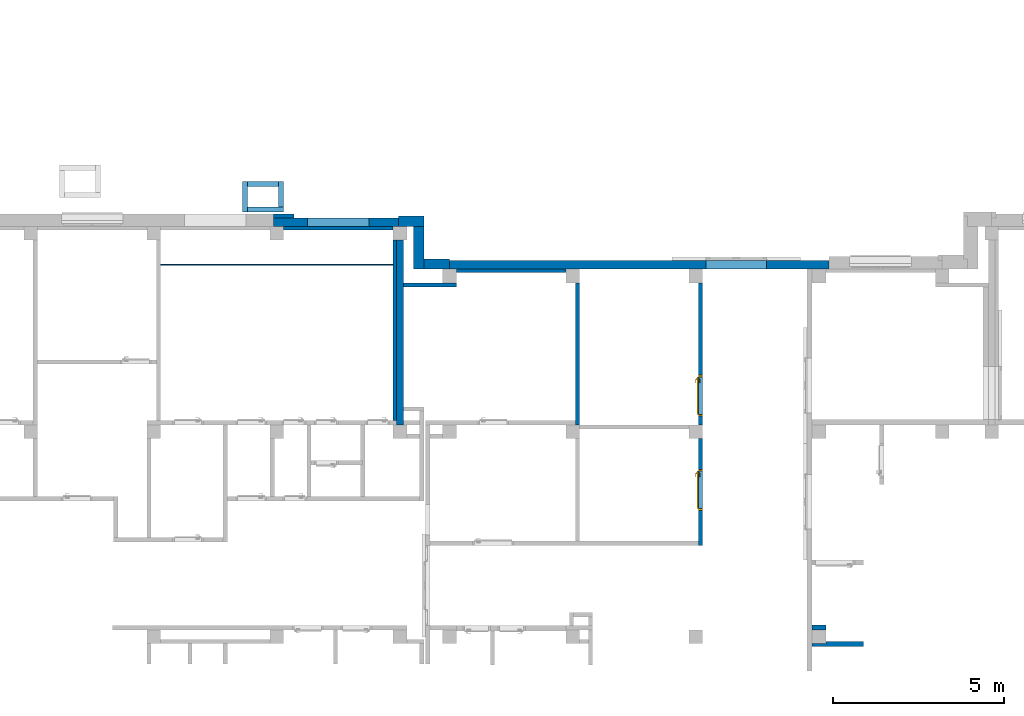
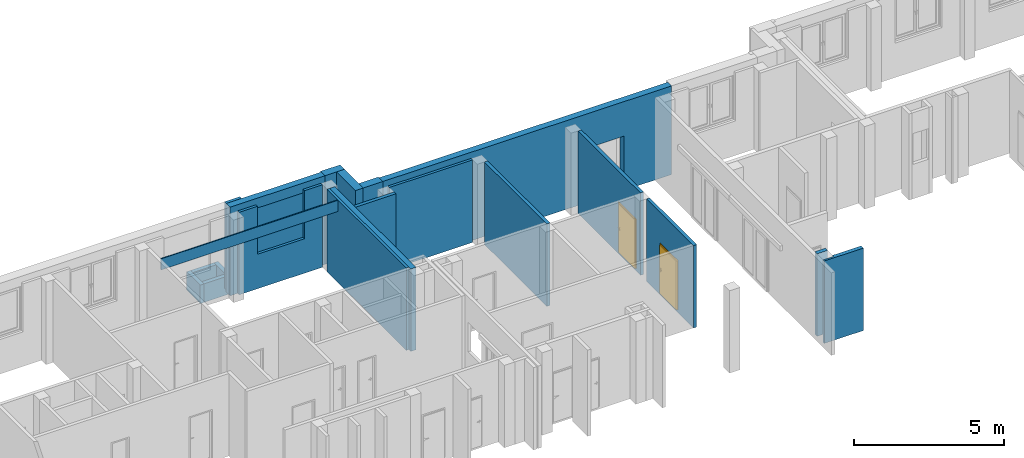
# One storey, part 19 of 37: 22 walls, 2 doors, 5 openings.
"""IFC4 building model written with IfcOpenShell, lengths in metres."""

from ifc_helpers import new_model, entity, si_unit, converted_unit, derived_unit, frame, frame_2d, origin, origin_with_axes, place, context, subcontext, project, spatial, polyline, rectangle, outline, extrude, closed_shell, open_shell, surface_model, source, transform, mapped, material, layer, layer_set, layer_usage, type_object, element, fill, save


model = new_model("IFC4")

# Units and contexts
model_context = context("Model", 3, precision=1e-05, world=origin())
body_context = subcontext(model_context, "Body", "Model", "MODEL_VIEW")
ifc_project = project(units=[si_unit("LENGTHUNIT", "METRE"), si_unit("AREAUNIT", "SQUARE_METRE"), si_unit("VOLUMEUNIT", "CUBIC_METRE"), si_unit("MASSUNIT", "GRAM", prefix="KILO"), converted_unit("PLANEANGLEUNIT", "DEGREE", entity("IfcPlaneAngleMeasure", 0.0174532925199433), si_unit("PLANEANGLEUNIT", "RADIAN"), dimensions=[0, 0, 0, 0, 0, 0, 0]), derived_unit("THERMALTRANSMITTANCEUNIT", [(si_unit("POWERUNIT", "WATT"), 1), (si_unit("THERMODYNAMICTEMPERATUREUNIT", "KELVIN"), -1), (si_unit("LENGTHUNIT", "METRE"), -2)]), derived_unit("VOLUMETRICFLOWRATEUNIT", [(si_unit("LENGTHUNIT", "METRE"), 3), (converted_unit("TIMEUNIT", "hour", entity("IfcTimeMeasure", 3600.0), si_unit("TIMEUNIT", "SECOND"), dimensions=[0, 0, 1, 0, 0, 0, 0]), -1), (si_unit("LENGTHUNIT", "METRE"), -1)])], contexts=[model_context])

# Site, building, storey
site_placement = place(None, origin())
site = spatial("IfcSite", under=ifc_project, at=site_placement, Name="3. ASŘ", CompositionType="ELEMENT")
building_placement = place(site_placement, origin())
building = spatial("IfcBuilding", under=site, at=building_placement, Name="Pavilon B", CompositionType="ELEMENT")
storey_placement = place(building_placement, origin())
storey = spatial("IfcBuildingStorey", under=building, at=storey_placement, Name="Půdorys 1.NP", CompositionType="ELEMENT", Elevation=0.0)

# Wall, opening, door
ifc_material_1 = material(Name="ZDIVO Z CDm")
ifc_layer_1 = layer(ifc_material_1, 0.125)
ifc_layer_set_1 = layer_set([ifc_layer_1])
ifc_layer_usage_1 = layer_usage(ifc_layer_set_1, "AXIS2", "POSITIVE", 0.0)
wall_1_placement = place(storey_placement, frame((40.65, -21.4, -0.1), z_axis=(0.0, 0.0, 1.0), x_axis=(0.0, 1.0, 0.0)))
wall_1 = element("IfcWall", 1, at=wall_1_placement, inside=storey, material=ifc_layer_usage_1, Name="ZDIVO Z CDm", context=body_context, shape_type="SweptSolid", body=[
    extrude(rectangle(XDim=4.15, YDim=0.125, at=frame_2d((2.075, 0.0625), x_axis=(1.0, 0.0))), origin_with_axes(), (0.0, 0.0, 1.0), 3.35),
])
opening_1_placement = place(wall_1_placement, frame((1.45000000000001, 0.125, 0.1), z_axis=(0.0, -1.0, 0.0), x_axis=(0.0, 0.0, 1.0)))
opening_1 = element("IfcOpeningElement", 2, at=opening_1_placement, cuts=wall_1, Name="Dveřní otvor", ObjectType="Opening", context=body_context, shape_type="SweptSolid", body=[
    extrude(outline(polyline([(0.0, 1.2), (2.02, 1.2), (2.02, 0.0), (0.0, 0.0), (0.0, 1.2)])), origin_with_axes(), (0.0, 0.0, 1.0), 0.125),
])
door_type_1 = type_object("IfcDoorType", Name="D101", OperationType="NOTDEFINED", ParameterTakesPrecedence=False, PredefinedType="DOOR")
shared_shape = source(origin_with_axes(), body_context, "Body", "SurfaceModel", [
    surface_model("IfcShellBasedSurfaceModel", [(0.0, 0.125, 2.02), (0.0, 0.125, -7.65404249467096e-18), (0.05, 0.125, -7.65404249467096e-18), (0.05, 0.125, 2.02), (0.0, 0.0, 7.65404249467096e-18), (0.0, 2.41584530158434e-16, 2.02), (0.05, 2.41584530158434e-16, 2.02), (0.05, 0.0, 7.65404249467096e-18)], [closed_shell([[[0, 1, 2, 3]], [[4, 5, 6, 7]], [[1, 0, 5, 4]], [[2, 1, 4, 7]], [[3, 2, 7, 6]], [[0, 3, 6, 5]]], orient=[[False], [False], [False], [False], [False], [False]])]),
    surface_model("IfcShellBasedSurfaceModel", [(1.15, 0.125, 2.02), (1.15, 0.125, -7.65404249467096e-18), (1.2, 0.125, -7.65404249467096e-18), (1.2, 0.125, 2.02), (1.15, 0.0, 7.65404249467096e-18), (1.15, 2.41584530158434e-16, 2.02), (1.2, 2.41584530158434e-16, 2.02), (1.2, 0.0, 7.65404249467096e-18)], [closed_shell([[[0, 1, 2, 3]], [[4, 5, 6, 7]], [[1, 0, 5, 4]], [[2, 1, 4, 7]], [[3, 2, 7, 6]], [[0, 3, 6, 5]]], orient=[[False], [False], [False], [False], [False], [False]])]),
    surface_model("IfcShellBasedSurfaceModel", [(0.05, 0.125, 2.02), (0.05, 0.125, 1.97), (1.15, 0.125, 1.97), (1.15, 0.125, 2.02), (0.05, 2.41584530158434e-16, 1.97), (0.05, 2.41584530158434e-16, 2.02), (1.15, 2.41584530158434e-16, 2.02), (1.15, 2.41584530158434e-16, 1.97)], [closed_shell([[[0, 1, 2, 3]], [[4, 5, 6, 7]], [[1, 0, 5, 4]], [[2, 1, 4, 7]], [[3, 2, 7, 6]], [[0, 3, 6, 5]]], orient=[[False], [False], [False], [False], [False], [False]])]),
    surface_model("IfcShellBasedSurfaceModel", [(0.05, 0.165, 1.97), (0.05, 0.165, -1.25526296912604e-17), (1.15, 0.165, -1.25526296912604e-17), (1.15, 0.165, 1.97), (0.05, 0.125, -7.65404249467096e-18), (0.05, 0.125, 1.97), (1.15, 0.125, 1.97), (1.15, 0.125, -7.65404249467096e-18)], [closed_shell([[[0, 1, 2, 3]], [[4, 5, 6, 7]], [[1, 0, 5, 4]], [[2, 1, 4, 7]], [[3, 2, 7, 6]], [[0, 3, 6, 5]]], orient=[[False], [False], [False], [False], [False], [False]])]),
    surface_model("IfcShellBasedSurfaceModel", [(1.10881569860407, 0.125, 0.93625), (1.1125, 0.125, 0.95), (1.10881569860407, 0.125, 0.96375), (1.09875, 0.125, 0.973815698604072), (1.085, 0.125, 0.9775), (1.07125, 0.125, 0.973815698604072), (1.06118430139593, 0.125, 0.96375), (1.0575, 0.125, 0.95), (1.06118430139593, 0.125, 0.93625), (1.07125, 0.125, 0.926184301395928), (1.085, 0.125, 0.9225), (1.09875, 0.125, 0.926184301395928), (1.1125, 0.1125, 0.95), (1.10881569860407, 0.1125, 0.93625), (1.09875, 0.1125, 0.926184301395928), (1.085, 0.1125, 0.9225), (1.07125, 0.1125, 0.926184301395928), (1.06118430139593, 0.1125, 0.93625), (1.0575, 0.1125, 0.95), (1.06118430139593, 0.1125, 0.96375), (1.07125, 0.1125, 0.973815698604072), (1.085, 0.1125, 0.9775), (1.09875, 0.1125, 0.973815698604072), (1.10881569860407, 0.1125, 0.96375)], [closed_shell([[[0, 1, 2, 3, 4, 5, 6, 7, 8, 9, 10, 11]], [[12, 13, 14, 15, 16, 17, 18, 19, 20, 21, 22, 23]], [[1, 0, 13, 12]], [[2, 1, 12, 23]], [[3, 2, 23, 22]], [[4, 3, 22, 21]], [[5, 4, 21, 20]], [[6, 5, 20, 19]], [[7, 6, 19, 18]], [[8, 7, 18, 17]], [[9, 8, 17, 16]], [[10, 9, 16, 15]], [[11, 10, 15, 14]], [[0, 11, 14, 13]]], orient=[[False], [False], [False], [False], [False], [False], [False], [False], [False], [False], [False], [False], [False], [False]])]),
    surface_model("IfcShellBasedSurfaceModel", [(1.10881569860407, 0.125, 1.03625), (1.1125, 0.125, 1.05), (1.10881569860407, 0.125, 1.06375), (1.09875, 0.125, 1.07381569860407), (1.085, 0.125, 1.0775), (1.07125, 0.125, 1.07381569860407), (1.06118430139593, 0.125, 1.06375), (1.0575, 0.125, 1.05), (1.06118430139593, 0.125, 1.03625), (1.07125, 0.125, 1.02618430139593), (1.085, 0.125, 1.0225), (1.09875, 0.125, 1.02618430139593), (1.1125, 0.1125, 1.05), (1.10881569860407, 0.1125, 1.03625), (1.09875, 0.1125, 1.02618430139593), (1.085, 0.1125, 1.0225), (1.07125, 0.1125, 1.02618430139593), (1.06118430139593, 0.1125, 1.03625), (1.0575, 0.1125, 1.05), (1.06118430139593, 0.1125, 1.06375), (1.07125, 0.1125, 1.07381569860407), (1.085, 0.1125, 1.0775), (1.09875, 0.1125, 1.07381569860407), (1.10881569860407, 0.1125, 1.06375)], [closed_shell([[[0, 1, 2, 3, 4, 5, 6, 7, 8, 9, 10, 11]], [[12, 13, 14, 15, 16, 17, 18, 19, 20, 21, 22, 23]], [[1, 0, 13, 12]], [[2, 1, 12, 23]], [[3, 2, 23, 22]], [[4, 3, 22, 21]], [[5, 4, 21, 20]], [[6, 5, 20, 19]], [[7, 6, 19, 18]], [[8, 7, 18, 17]], [[9, 8, 17, 16]], [[10, 9, 16, 15]], [[11, 10, 15, 14]], [[0, 11, 14, 13]]], orient=[[False], [False], [False], [False], [False], [False], [False], [False], [False], [False], [False], [False], [False], [False]])]),
    surface_model("IfcShellBasedSurfaceModel", [(1.085, 0.125, 1.06), (1.08, 0.125, 1.05866025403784), (1.07633974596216, 0.125, 1.055), (1.075, 0.125, 1.05), (1.07633974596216, 0.125, 1.045), (1.08, 0.125, 1.04133974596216), (1.085, 0.125, 1.04), (1.09, 0.125, 1.04133974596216), (1.09366025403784, 0.125, 1.045), (1.095, 0.125, 1.05), (1.09366025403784, 0.125, 1.055), (1.09, 0.125, 1.05866025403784), (1.09, 0.0800000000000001, 1.05866025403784), (1.085, 0.0850000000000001, 1.06), (1.09366025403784, 0.0763397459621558, 1.055), (1.095, 0.0750000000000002, 1.05), (1.09366025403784, 0.0763397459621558, 1.045), (1.09, 0.0800000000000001, 1.04133974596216), (1.085, 0.0850000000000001, 1.04), (1.08, 0.0900000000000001, 1.04133974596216), (1.07633974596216, 0.0936602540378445, 1.045), (1.075, 0.0950000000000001, 1.05), (1.07633974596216, 0.0936602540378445, 1.055), (1.08, 0.0900000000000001, 1.05866025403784), (0.97, 0.0800000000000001, 1.05866025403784), (0.97, 0.0850000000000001, 1.06), (0.97, 0.0763397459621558, 1.055), (0.97, 0.0750000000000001, 1.05), (0.97, 0.0763397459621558, 1.045), (0.97, 0.0800000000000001, 1.04133974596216), (0.97, 0.0850000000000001, 1.04), (0.97, 0.0900000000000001, 1.04133974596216), (0.97, 0.0936602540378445, 1.045), (0.97, 0.0950000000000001, 1.05), (0.97, 0.0936602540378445, 1.055), (0.97, 0.0900000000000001, 1.05866025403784)], [open_shell([[[0, 1, 2, 3, 4, 5, 6, 7, 8, 9, 10, 11]], [[0, 11, 12, 13]], [[11, 10, 14, 12]], [[10, 9, 15, 14]], [[9, 8, 16, 15]], [[8, 7, 17, 16]], [[7, 6, 18, 17]], [[6, 5, 19, 18]], [[5, 4, 20, 19]], [[4, 3, 21, 20]], [[3, 2, 22, 21]], [[2, 1, 23, 22]], [[1, 0, 13, 23]], [[13, 12, 24, 25]], [[12, 14, 26, 24]], [[14, 15, 27, 26]], [[15, 16, 28, 27]], [[16, 17, 29, 28]], [[17, 18, 30, 29]], [[18, 19, 31, 30]], [[19, 20, 32, 31]], [[20, 21, 33, 32]], [[21, 22, 34, 33]], [[22, 23, 35, 34]], [[23, 13, 25, 35]]], orient=[[False], [False], [False], [False], [False], [False], [False], [False], [False], [False], [False], [False], [False], [False], [False], [False], [False], [False], [False], [False], [False], [False], [False], [False], [False]])]),
    surface_model("IfcShellBasedSurfaceModel", [(1.10881569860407, 0.165, 0.93625), (1.09875, 0.165, 0.926184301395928), (1.085, 0.165, 0.9225), (1.07125, 0.165, 0.926184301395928), (1.06118430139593, 0.165, 0.93625), (1.0575, 0.165, 0.95), (1.06118430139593, 0.165, 0.96375), (1.07125, 0.165, 0.973815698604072), (1.085, 0.165, 0.9775), (1.09875, 0.165, 0.973815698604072), (1.10881569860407, 0.165, 0.96375), (1.1125, 0.165, 0.95), (1.1125, 0.1775, 0.95), (1.10881569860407, 0.1775, 0.96375), (1.09875, 0.1775, 0.973815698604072), (1.085, 0.1775, 0.9775), (1.07125, 0.1775, 0.973815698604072), (1.06118430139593, 0.1775, 0.96375), (1.0575, 0.1775, 0.95), (1.06118430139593, 0.1775, 0.93625), (1.07125, 0.1775, 0.926184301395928), (1.085, 0.1775, 0.9225), (1.09875, 0.1775, 0.926184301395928), (1.10881569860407, 0.1775, 0.93625)], [closed_shell([[[0, 1, 2, 3, 4, 5, 6, 7, 8, 9, 10, 11]], [[12, 13, 14, 15, 16, 17, 18, 19, 20, 21, 22, 23]], [[11, 12, 23, 0]], [[10, 13, 12, 11]], [[9, 14, 13, 10]], [[8, 15, 14, 9]], [[7, 16, 15, 8]], [[6, 17, 16, 7]], [[5, 18, 17, 6]], [[4, 19, 18, 5]], [[3, 20, 19, 4]], [[2, 21, 20, 3]], [[1, 22, 21, 2]], [[0, 23, 22, 1]]], orient=[[False], [False], [False], [False], [False], [False], [False], [False], [False], [False], [False], [False], [False], [False]])]),
    surface_model("IfcShellBasedSurfaceModel", [(1.10881569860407, 0.165, 1.03625), (1.09875, 0.165, 1.02618430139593), (1.085, 0.165, 1.0225), (1.07125, 0.165, 1.02618430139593), (1.06118430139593, 0.165, 1.03625), (1.0575, 0.165, 1.05), (1.06118430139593, 0.165, 1.06375), (1.07125, 0.165, 1.07381569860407), (1.085, 0.165, 1.0775), (1.09875, 0.165, 1.07381569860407), (1.10881569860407, 0.165, 1.06375), (1.1125, 0.165, 1.05), (1.1125, 0.1775, 1.05), (1.10881569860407, 0.1775, 1.06375), (1.09875, 0.1775, 1.07381569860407), (1.085, 0.1775, 1.0775), (1.07125, 0.1775, 1.07381569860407), (1.06118430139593, 0.1775, 1.06375), (1.0575, 0.1775, 1.05), (1.06118430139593, 0.1775, 1.03625), (1.07125, 0.1775, 1.02618430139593), (1.085, 0.1775, 1.0225), (1.09875, 0.1775, 1.02618430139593), (1.10881569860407, 0.1775, 1.03625)], [closed_shell([[[0, 1, 2, 3, 4, 5, 6, 7, 8, 9, 10, 11]], [[12, 13, 14, 15, 16, 17, 18, 19, 20, 21, 22, 23]], [[11, 12, 23, 0]], [[10, 13, 12, 11]], [[9, 14, 13, 10]], [[8, 15, 14, 9]], [[7, 16, 15, 8]], [[6, 17, 16, 7]], [[5, 18, 17, 6]], [[4, 19, 18, 5]], [[3, 20, 19, 4]], [[2, 21, 20, 3]], [[1, 22, 21, 2]], [[0, 23, 22, 1]]], orient=[[False], [False], [False], [False], [False], [False], [False], [False], [False], [False], [False], [False], [False], [False]])]),
    surface_model("IfcShellBasedSurfaceModel", [(1.085, 0.165, 1.06), (1.09, 0.165, 1.05866025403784), (1.09366025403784, 0.165, 1.055), (1.095, 0.165, 1.05), (1.09366025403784, 0.165, 1.045), (1.09, 0.165, 1.04133974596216), (1.085, 0.165, 1.04), (1.08, 0.165, 1.04133974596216), (1.07633974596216, 0.165, 1.045), (1.075, 0.165, 1.05), (1.07633974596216, 0.165, 1.055), (1.08, 0.165, 1.05866025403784), (1.085, 0.205, 1.06), (1.09, 0.21, 1.05866025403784), (1.09366025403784, 0.213660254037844, 1.055), (1.095, 0.215, 1.05), (1.09366025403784, 0.213660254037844, 1.045), (1.09, 0.21, 1.04133974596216), (1.085, 0.205, 1.04), (1.08, 0.2, 1.04133974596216), (1.07633974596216, 0.196339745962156, 1.045), (1.075, 0.195, 1.05), (1.07633974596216, 0.196339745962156, 1.055), (1.08, 0.2, 1.05866025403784), (0.97, 0.205, 1.06), (0.97, 0.21, 1.05866025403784), (0.97, 0.213660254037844, 1.055), (0.97, 0.215, 1.05), (0.97, 0.213660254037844, 1.045), (0.97, 0.21, 1.04133974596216), (0.97, 0.205, 1.04), (0.97, 0.2, 1.04133974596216), (0.97, 0.196339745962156, 1.045), (0.97, 0.195, 1.05), (0.97, 0.196339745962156, 1.055), (0.97, 0.2, 1.05866025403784)], [open_shell([[[0, 1, 2, 3, 4, 5, 6, 7, 8, 9, 10, 11]], [[0, 12, 13, 1]], [[1, 13, 14, 2]], [[2, 14, 15, 3]], [[3, 15, 16, 4]], [[4, 16, 17, 5]], [[5, 17, 18, 6]], [[6, 18, 19, 7]], [[7, 19, 20, 8]], [[8, 20, 21, 9]], [[9, 21, 22, 10]], [[10, 22, 23, 11]], [[11, 23, 12, 0]], [[12, 24, 25, 13]], [[13, 25, 26, 14]], [[14, 26, 27, 15]], [[15, 27, 28, 16]], [[16, 28, 29, 17]], [[17, 29, 30, 18]], [[18, 30, 31, 19]], [[19, 31, 32, 20]], [[20, 32, 33, 21]], [[21, 33, 34, 22]], [[22, 34, 35, 23]], [[23, 35, 24, 12]]], orient=[[False], [False], [False], [False], [False], [False], [False], [False], [False], [False], [False], [False], [False], [False], [False], [False], [False], [False], [False], [False], [False], [False], [False], [False], [False]])]),
])
door_1_placement = place(opening_1_placement, frame((0.0, 1.19999999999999, 0.124999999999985), z_axis=(1.0, 0.0, 0.0), x_axis=(0.0, -1.0, 1.22464679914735e-16)))
door_1 = element("IfcDoor", 3, at=door_1_placement, inside=storey, type_object=door_type_1, Name="D101", OverallHeight=2.02, OverallWidth=1.2, context=body_context, shape_type="MappedRepresentation", body=[
    mapped(shared_shape, transform((0.0, 0.0, 0.0), x_axis=(1.0, 0.0, 0.0), y_axis=(0.0, 1.0, 0.0), z_axis=(0.0, 0.0, 1.0), scale=1.0)),
])
fill(opening_1, door_1)

# Wall
ifc_material_2 = material(Name="ZDIVO Z CDm")
ifc_layer_2 = layer(ifc_material_2, 0.125)
ifc_layer_set_2 = layer_set([ifc_layer_2])
ifc_layer_usage_2 = layer_usage(ifc_layer_set_2, "AXIS2", "POSITIVE", 0.0)
wall_2_placement = place(storey_placement, frame((37.05, -21.4, -0.1), z_axis=(0.0, 0.0, 1.0), x_axis=(0.0, 1.0, 0.0)))
element("IfcWall", 4, at=wall_2_placement, inside=storey, material=ifc_layer_usage_2, Name="ZDIVO Z CDm", context=body_context, shape_type="SweptSolid", body=[
    extrude(rectangle(XDim=4.15, YDim=0.125, at=frame_2d((2.075, 0.0625), x_axis=(1.0, 0.0))), origin_with_axes(), (0.0, 0.0, 1.0), 3.35),
])

# Wall, opening
ifc_material_3 = material(Name="ZELEZOBETONOVÁ KCE")
ifc_layer_3 = layer(ifc_material_3, 0.249999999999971)
ifc_layer_set_3 = layer_set([ifc_layer_3])
ifc_layer_usage_3 = layer_usage(ifc_layer_set_3, "AXIS2", "POSITIVE", 0.0)
wall_3_placement = place(storey_placement, frame((33.25, -16.85, -0.1)))
wall_3 = element("IfcWall", 5, at=wall_3_placement, inside=storey, material=ifc_layer_usage_3, Name="ZELEZOBETONOVÁ KCE", context=body_context, shape_type="SweptSolid", body=[
    extrude(rectangle(XDim=11.1, YDim=0.249999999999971, at=frame_2d((5.55, 0.124999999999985), x_axis=(1.0, 0.0))), origin_with_axes(), (0.0, 0.0, 1.0), 3.6),
])
opening_2_placement = place(wall_3_placement, frame((9.26, 0.249999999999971, 0.1), z_axis=(0.0, -1.0, 0.0), x_axis=(0.0, 0.0, 1.0)))
element("IfcOpeningElement", 6, at=opening_2_placement, cuts=wall_3, Name="Dveřní otvor", ObjectType="Opening", context=body_context, shape_type="SweptSolid", body=[
    extrude(outline(polyline([(0.0, 1.76), (2.1, 1.76), (2.1, 0.0), (0.0, 0.0), (0.0, 1.76)])), origin_with_axes(), (0.0, 0.0, 1.0), 0.249999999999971),
])

# Walls
ifc_material_4 = material(Name="PÓROBETONOVÉ ZDIVO")
ifc_layer_4 = layer(ifc_material_4, 0.1)
ifc_layer_set_4 = layer_set([ifc_layer_4])
ifc_layer_usage_4 = layer_usage(ifc_layer_set_4, "AXIS2", "POSITIVE", 0.0)
wall_4_placement = place(storey_placement, frame((36.65, -16.85, -0.1), z_axis=(0.0, 0.0, 1.0), x_axis=(-1.0, 0.0, 0.0)))
element("IfcWall", 7, at=wall_4_placement, inside=storey, material=ifc_layer_usage_4, Name="PÓROBETONOVÉ ZDIVO", context=body_context, shape_type="SweptSolid", body=[
    extrude(rectangle(XDim=3.2, YDim=0.1, at=frame_2d((1.6, 0.05), x_axis=(1.0, 0.0))), origin_with_axes(), (0.0, 0.0, 1.0), 3.35),
])
ifc_material_5 = material(Name="ZELEZOBETONOVÁ KCE")
ifc_layer_5 = layer(ifc_material_5, 0.2)
ifc_layer_set_5 = layer_set([ifc_layer_5])
ifc_layer_usage_5 = layer_usage(ifc_layer_set_5, "AXIS2", "POSITIVE", -0.1)
wall_5_placement = place(storey_placement, frame((31.9, -21.4, -0.1), z_axis=(0.0, 0.0, 1.0), x_axis=(0.0, 1.0, 0.0)))
element("IfcWall", 8, at=wall_5_placement, inside=storey, material=ifc_layer_usage_5, Name="ZELEZOBETONOVÁ KCE", context=body_context, shape_type="SweptSolid", body=[
    extrude(rectangle(XDim=5.4, YDim=0.2, at=frame_2d((2.7, 0.1), x_axis=(1.0, 0.0))), origin_with_axes(), (0.0, 0.0, 1.0), 3.35),
])
ifc_material_6 = material(Name="PÓROBETONOVÉ ZDIVO")
ifc_layer_6 = layer(ifc_material_6, 0.1)
ifc_layer_set_6 = layer_set([ifc_layer_6])
ifc_layer_usage_6 = layer_usage(ifc_layer_set_6, "AXIS2", "POSITIVE", 0.0)
wall_6_placement = place(storey_placement, frame((31.6, -16.0, -0.1), z_axis=(0.0, 0.0, 1.0), x_axis=(0.0, -1.0, 0.0)))
element("IfcWall", 9, at=wall_6_placement, inside=storey, material=ifc_layer_usage_6, Name="PÓROBETONOVÉ ZDIVO", context=body_context, shape_type="SweptSolid", body=[
    extrude(rectangle(XDim=5.275, YDim=0.1, at=frame_2d((2.6375, 0.05), x_axis=(1.0, 0.0))), origin_with_axes(), (0.0, 0.0, 1.0), 3.35),
])
ifc_material_7 = material(Name="ZDIVO Z CDm")
ifc_layer_7 = layer(ifc_material_7, 0.125)
ifc_layer_set_7 = layer_set([ifc_layer_7])
ifc_layer_usage_7 = layer_usage(ifc_layer_set_7, "AXIS2", "POSITIVE", 0.0)
wall_7_placement = place(storey_placement, frame((33.45, -17.25, -0.1), z_axis=(0.0, 0.0, 1.0), x_axis=(-1.0, 0.0, 0.0)))
element("IfcWall", 10, at=wall_7_placement, inside=storey, material=ifc_layer_usage_7, Name="ZDIVO Z CDm", context=body_context, shape_type="SweptSolid", body=[
    extrude(rectangle(XDim=1.55, YDim=0.125, at=frame_2d((0.775, 0.0625), x_axis=(1.0, 0.0))), origin_with_axes(), (0.0, 0.0, 1.0), 3.35),
])

# Wall, opening
ifc_material_8 = material(Name="PÓROBETONOVÉ ZDIVO")
ifc_layer_8 = layer(ifc_material_8, 0.1)
ifc_layer_set_8 = layer_set([ifc_layer_8])
ifc_layer_usage_8 = layer_usage(ifc_layer_set_8, "AXIS2", "POSITIVE", 0.0)
wall_8_placement = place(storey_placement, frame((31.6, -15.6, -0.1), z_axis=(0.0, 0.0, 1.0), x_axis=(-1.0, 0.0, 0.0)))
wall_8 = element("IfcWall", 11, at=wall_8_placement, inside=storey, material=ifc_layer_usage_8, Name="PÓROBETONOVÉ ZDIVO", context=body_context, shape_type="SweptSolid", body=[
    extrude(rectangle(XDim=3.2, YDim=0.1, at=frame_2d((1.6, 0.05), x_axis=(1.0, 0.0))), origin_with_axes(), (0.0, 0.0, 1.0), 3.35),
])
opening_3_placement = place(wall_8_placement, frame((2.5, 0.1, 1.4), z_axis=(0.0, -1.0, 0.0), x_axis=(0.0, 0.0, 1.0)))
element("IfcOpeningElement", 12, at=opening_3_placement, cuts=wall_8, Name="Okenní otvor", ObjectType="Opening", context=body_context, shape_type="SweptSolid", body=[
    extrude(outline(polyline([(0.0, 1.8), (1.95, 1.8), (1.95, 0.0), (0.0, 0.0), (0.0, 1.8)])), origin_with_axes(), (0.0, 0.0, 1.0), 0.1),
])

# Walls
ifc_material_9 = material(Name="ZELEZOBETONOVÁ KCE")
ifc_layer_9 = layer(ifc_material_9, 0.3)
ifc_layer_set_9 = layer_set([ifc_layer_9])
ifc_layer_usage_9 = layer_usage(ifc_layer_set_9, "AXIS2", "POSITIVE", 0.0)
wall_9_placement = place(storey_placement, frame((32.5, -16.85, -0.1)))
element("IfcWall", 13, at=wall_9_placement, inside=storey, material=ifc_layer_usage_9, Name="ZELEZOBETONOVÁ KCE", context=body_context, shape_type="SweptSolid", body=[
    extrude(rectangle(XDim=0.75, YDim=0.3, at=frame_2d((0.375, 0.15), x_axis=(1.0, 0.0))), origin_with_axes(), (0.0, 0.0, 1.0), 3.6),
])
ifc_material_10 = material(Name="SDK SVISLA CAST PODHLEDU")
ifc_layer_10 = layer(ifc_material_10, 0.04)
ifc_layer_set_10 = layer_set([ifc_layer_10])
ifc_layer_usage_10 = layer_usage(ifc_layer_set_10, "AXIS2", "POSITIVE", 0.0)
wall_10_placement = place(storey_placement, frame((31.6, -16.7, 2.8), z_axis=(0.0, 0.0, 1.0), x_axis=(-1.0, 0.0, 0.0)))
element("IfcWall", 14, at=wall_10_placement, inside=storey, material=ifc_layer_usage_10, Name="SDK SVISLA CAST PODHLEDU", context=body_context, shape_type="SweptSolid", body=[
    extrude(rectangle(XDim=6.8, YDim=0.04, at=frame_2d((3.4, 0.02), x_axis=(1.0, 0.0))), origin_with_axes(), (0.0, 0.0, 1.0), 0.45),
])
ifc_material_11 = material(Name="YTONG 150")
ifc_layer_11 = layer(ifc_material_11, 0.15)
ifc_layer_set_11 = layer_set([ifc_layer_11])
ifc_layer_usage_11 = layer_usage(ifc_layer_set_11, "AXIS2", "POSITIVE", 0.0)
wall_11_placement = place(storey_placement, frame((43.85, -27.4, -0.1)))
element("IfcWall", 15, at=wall_11_placement, inside=storey, material=ifc_layer_usage_11, Name="YTONG 150", context=body_context, shape_type="SweptSolid", body=[
    extrude(rectangle(XDim=0.4, YDim=0.15, at=frame_2d((0.2, 0.075), x_axis=(1.0, 0.0))), origin_with_axes(), (0.0, 0.0, 1.0), 3.35),
])
ifc_material_12 = material(Name="YTONG 150")
ifc_layer_12 = layer(ifc_material_12, 0.15)
ifc_layer_set_12 = layer_set([ifc_layer_12])
ifc_layer_usage_12 = layer_usage(ifc_layer_set_12, "AXIS2", "POSITIVE", 0.0)
wall_12_placement = place(storey_placement, frame((43.85, -27.88, -0.1)))
element("IfcWall", 16, at=wall_12_placement, inside=storey, material=ifc_layer_usage_12, Name="YTONG 150", context=body_context, shape_type="SweptSolid", body=[
    extrude(outline(polyline([(0.0, 0.0), (1.5, 0.0), (1.5, 0.15), (0.4, 0.15), (0.4, 0.08), (0.0, 0.08), (0.0, 0.0)])), origin_with_axes(), (0.0, 0.0, 1.0), 3.35),
])

# Wall, opening, door
ifc_material_13 = material(Name="ZDIVO Z CDm")
ifc_layer_13 = layer(ifc_material_13, 0.125)
ifc_layer_set_13 = layer_set([ifc_layer_13])
ifc_layer_usage_13 = layer_usage(ifc_layer_set_13, "AXIS2", "POSITIVE", 0.0)
wall_13_placement = place(storey_placement, frame((40.65, -24.925, -0.1), z_axis=(0.0, 0.0, 1.0), x_axis=(0.0, 1.0, 0.0)))
wall_13 = element("IfcWall", 17, at=wall_13_placement, inside=storey, material=ifc_layer_usage_13, Name="ZDIVO Z CDm", context=body_context, shape_type="SweptSolid", body=[
    extrude(rectangle(XDim=3.125, YDim=0.125, at=frame_2d((1.5625, 0.0625), x_axis=(1.0, 0.0))), origin_with_axes(), (0.0, 0.0, 1.0), 3.35),
])
opening_4_placement = place(wall_13_placement, frame((2.22500000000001, 0.125, 0.1), z_axis=(0.0, -1.0, 0.0), x_axis=(0.0, 0.0, 1.0)))
opening_4 = element("IfcOpeningElement", 18, at=opening_4_placement, cuts=wall_13, Name="Dveřní otvor", ObjectType="Opening", context=body_context, shape_type="SweptSolid", body=[
    extrude(outline(polyline([(0.0, 1.2), (2.02, 1.2), (2.02, 0.0), (0.0, 0.0), (0.0, 1.2)])), origin_with_axes(), (0.0, 0.0, 1.0), 0.125),
])
door_type_2 = type_object("IfcDoorType", Name="D101", OperationType="NOTDEFINED", ParameterTakesPrecedence=False, PredefinedType="DOOR")
door_2_placement = place(opening_4_placement, frame((0.0, 1.19999999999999, 0.124999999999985), z_axis=(1.0, 0.0, 0.0), x_axis=(0.0, -1.0, 1.22464679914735e-16)))
door_2 = element("IfcDoor", 19, at=door_2_placement, inside=storey, type_object=door_type_2, Name="D101", OverallHeight=2.02, OverallWidth=1.2, context=body_context, shape_type="MappedRepresentation", body=[
    mapped(shared_shape, transform((0.0, 0.0, 0.0), x_axis=(1.0, 0.0, 0.0), y_axis=(0.0, 1.0, 0.0), z_axis=(0.0, 0.0, 1.0), scale=1.0)),
])
fill(opening_4, door_2)

# Walls
ifc_material_14 = material(Name="ZELEZOBETONOVÁ KCE")
ifc_layer_14 = layer(ifc_material_14, 0.3)
ifc_layer_set_14 = layer_set([ifc_layer_14])
ifc_layer_usage_14 = layer_usage(ifc_layer_set_14, "AXIS2", "POSITIVE", 0.0)
wall_14_placement = place(storey_placement, frame((32.2, -15.6, -0.1), z_axis=(0.0, 0.0, 1.0), x_axis=(0.0, -1.0, 0.0)))
element("IfcWall", 20, at=wall_14_placement, inside=storey, material=ifc_layer_usage_14, Name="ZELEZOBETONOVÁ KCE", context=body_context, shape_type="SweptSolid", body=[
    extrude(rectangle(XDim=1.25, YDim=0.3, at=frame_2d((0.624999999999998, 0.15), x_axis=(1.0, 0.0))), origin_with_axes(), (0.0, 0.0, 1.0), 3.6),
])
ifc_material_15 = material(Name="ZELEZOBETONOVÁ KCE")
ifc_layer_15 = layer(ifc_material_15, 0.3)
ifc_layer_set_15 = layer_set([ifc_layer_15])
ifc_layer_usage_15 = layer_usage(ifc_layer_set_15, "AXIS2", "POSITIVE", 0.0)
wall_15_placement = place(storey_placement, frame((31.75, -15.6, -0.1)))
element("IfcWall", 21, at=wall_15_placement, inside=storey, material=ifc_layer_usage_15, Name="ZELEZOBETONOVÁ KCE", context=body_context, shape_type="SweptSolid", body=[
    extrude(rectangle(XDim=0.75, YDim=0.3, at=frame_2d((0.375, 0.15), x_axis=(1.0, 0.0))), origin_with_axes(), (0.0, 0.0, 1.0), 3.6),
])

# Wall, opening
ifc_material_16 = material(Name="ZELEZOBETONOVÁ KCE")
ifc_layer_16 = layer(ifc_material_16, 0.25)
ifc_layer_set_16 = layer_set([ifc_layer_16])
ifc_layer_usage_16 = layer_usage(ifc_layer_set_16, "AXIS2", "POSITIVE", 0.0)
wall_16_placement = place(storey_placement, frame((28.1, -15.6, -0.1)))
wall_16 = element("IfcWall", 22, at=wall_16_placement, inside=storey, material=ifc_layer_usage_16, Name="ZELEZOBETONOVÁ KCE", context=body_context, shape_type="SweptSolid", body=[
    extrude(rectangle(XDim=3.65, YDim=0.25, at=frame_2d((1.825, 0.125), x_axis=(1.0, 0.0))), origin_with_axes(), (0.0, 0.0, 1.0), 3.6),
])
opening_5_placement = place(wall_16_placement, frame((2.8, 0.25, 1.4), z_axis=(0.0, -1.0, 0.0), x_axis=(0.0, 0.0, 1.0)))
element("IfcOpeningElement", 23, at=opening_5_placement, cuts=wall_16, Name="Okenní otvor", ObjectType="Opening", context=body_context, shape_type="SweptSolid", body=[
    extrude(outline(polyline([(0.0, 1.8), (1.8, 1.8), (1.8, 0.0), (0.0, 0.0), (0.0, 1.8)])), origin_with_axes(), (0.0, 0.0, 1.0), 0.25),
])

# Walls
ifc_material_17 = material(Name="ZELEZOBETONOVÁ KCE")
ifc_layer_17 = layer(ifc_material_17, 0.15)
ifc_layer_set_17 = layer_set([ifc_layer_17])
ifc_layer_usage_17 = layer_usage(ifc_layer_set_17, "AXIS2", "POSITIVE", 0.0)
wall_17_placement = place(storey_placement, frame((28.3981868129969, -15.0334392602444, -0.35), z_axis=(0.0, 0.0, 1.0), x_axis=(0.0, 1.0, 0.0)))
element("IfcWall", 24, at=wall_17_placement, inside=storey, material=ifc_layer_usage_17, Name="ZELEZOBETONOVÁ KCE", context=body_context, shape_type="SweptSolid", body=[
    extrude(rectangle(XDim=0.75, YDim=0.15, at=frame_2d((0.375, 0.075), x_axis=(1.0, 0.0))), origin_with_axes(), (0.0, 0.0, 1.0), 0.75),
])
ifc_material_18 = material(Name="ZELEZOBETONOVÁ KCE")
ifc_layer_18 = layer(ifc_material_18, 0.15)
ifc_layer_set_18 = layer_set([ifc_layer_18])
ifc_layer_usage_18 = layer_usage(ifc_layer_set_18, "AXIS2", "POSITIVE", 0.0)
wall_18_placement = place(storey_placement, frame((28.2481868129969, -14.2834392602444, -0.35), z_axis=(0.0, 0.0, 1.0), x_axis=(-1.0, 0.0, 0.0)))
element("IfcWall", 25, at=wall_18_placement, inside=storey, material=ifc_layer_usage_18, Name="ZELEZOBETONOVÁ KCE", context=body_context, shape_type="SweptSolid", body=[
    extrude(rectangle(XDim=0.9, YDim=0.15, at=frame_2d((0.45, 0.075), x_axis=(1.0, 0.0))), origin_with_axes(), (0.0, 0.0, 1.0), 0.75),
])
ifc_material_19 = material(Name="ZELEZOBETONOVÁ KCE")
ifc_layer_19 = layer(ifc_material_19, 0.15)
ifc_layer_set_19 = layer_set([ifc_layer_19])
ifc_layer_usage_19 = layer_usage(ifc_layer_set_19, "AXIS2", "POSITIVE", 0.0)
wall_19_placement = place(storey_placement, frame((27.1981868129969, -14.2834392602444, -0.35), z_axis=(0.0, 0.0, 1.0), x_axis=(0.0, -1.0, 0.0)))
element("IfcWall", 26, at=wall_19_placement, inside=storey, material=ifc_layer_usage_19, Name="ZELEZOBETONOVÁ KCE", context=body_context, shape_type="SweptSolid", body=[
    extrude(rectangle(XDim=0.9, YDim=0.15, at=frame_2d((0.45, 0.075), x_axis=(1.0, 0.0))), origin_with_axes(), (0.0, 0.0, 1.0), 0.75),
])
ifc_material_20 = material(Name="ZELEZOBETONOVÁ KCE")
ifc_layer_20 = layer(ifc_material_20, 0.15)
ifc_layer_set_20 = layer_set([ifc_layer_20])
ifc_layer_usage_20 = layer_usage(ifc_layer_set_20, "AXIS2", "POSITIVE", 0.0)
wall_20_placement = place(storey_placement, frame((27.3481868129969, -15.1834392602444, -0.35)))
element("IfcWall", 27, at=wall_20_placement, inside=storey, material=ifc_layer_usage_20, Name="ZELEZOBETONOVÁ KCE", context=body_context, shape_type="SweptSolid", body=[
    extrude(rectangle(XDim=1.05, YDim=0.15, at=frame_2d((0.525, 0.075), x_axis=(1.0, 0.0))), origin_with_axes(), (0.0, 0.0, 1.0), 0.75),
])
ifc_material_21 = material(Name="YTONG 250")
ifc_layer_21 = layer(ifc_material_21, 0.25)
ifc_layer_set_21 = layer_set([ifc_layer_21])
ifc_layer_usage_21 = layer_usage(ifc_layer_set_21, "AXIS2", "POSITIVE", 0.0)
wall_21_placement = place(storey_placement, frame((29.1, -15.6, 1.3)))
element("IfcWall", 28, at=wall_21_placement, inside=storey, material=ifc_layer_usage_21, Name="YTONG 250", context=body_context, shape_type="SweptSolid", body=[
    extrude(rectangle(XDim=1.8, YDim=0.25, at=frame_2d((0.9, 0.125), x_axis=(1.0, 0.0))), origin_with_axes(), (0.0, 0.0, 1.0), 1.8),
])
ifc_material_22 = material(Name="MINERÁLNÍ VATA")
ifc_layer_22 = layer(ifc_material_22, 0.119999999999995)
ifc_layer_set_22 = layer_set([ifc_layer_22])
ifc_layer_usage_22 = layer_usage(ifc_layer_set_22, "AXIS2", "POSITIVE", 0.0)
wall_22_placement = place(storey_placement, frame((28.1, -15.35, 0.0)))
element("IfcWall", 29, at=wall_22_placement, inside=storey, material=ifc_layer_usage_22, Name="MINERÁLNÍ VATA", context=body_context, shape_type="SweptSolid", body=[
    extrude(rectangle(XDim=0.6, YDim=0.119999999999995, at=frame_2d((0.3, 0.0599999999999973), x_axis=(1.0, 0.0))), origin_with_axes(), (0.0, 0.0, 1.0), 3.5),
])

save(model, "model.ifc")
